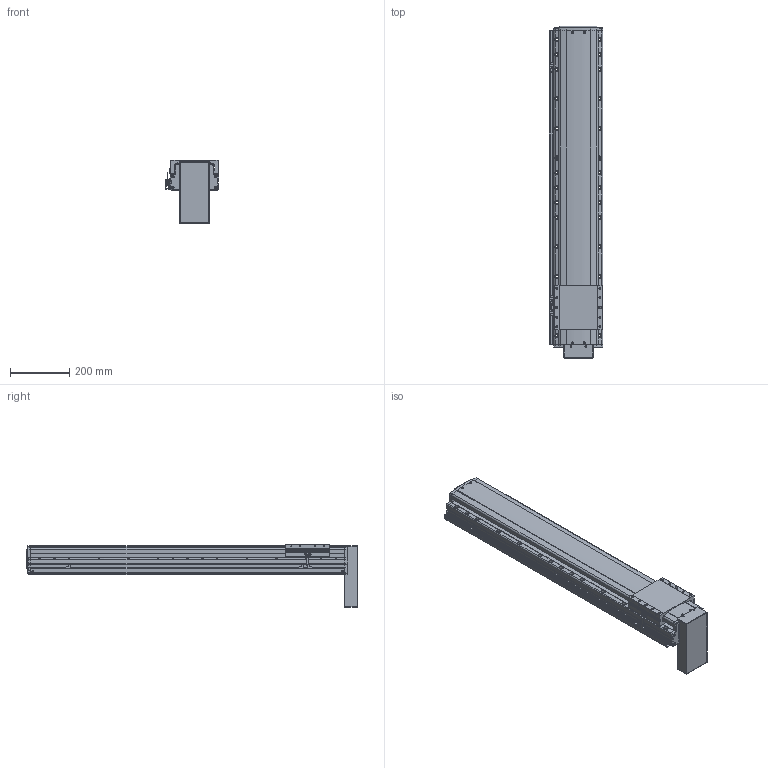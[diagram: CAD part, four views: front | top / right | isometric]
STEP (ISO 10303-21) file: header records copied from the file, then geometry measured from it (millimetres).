
FILE_DESCRIPTION(('STEP AP214'),'1');
FILE_NAME('Z:/Web/3D/PSA165/STP/PSA165-800 (3D)/PSA165ㅁㅁ-800PB+3SL.stp','2014-06-23T11:59:03',(' '),(' '),'Spatial InterOp 3D',' ',' ');
FILE_SCHEMA(('automotive_design'));
Length unit declared in the file: millimetre
Products named in the file (47): 스크루 : Round - M4.0 x 12.0; RRCV-PA160; BASE; 스크루 : Round - M4.0 x 10.0; RN15; Screw 20; SLIDE; FRCV; MTPL CV- PB; 스크루 : Round - M3.0 x 6.0; 1; 2; M3.0 x 6.0; SRL-16x17-360L; SGD-SAN150; EE-SX674; SBK-SX674-352; BHCS M4.0 x 10.0
Bounding box: 181 x 1120.8 x 215.96 mm (x, y, z)
Volume: 15889577.6 mm3; surface area: 1144933.4 mm2
Topology: 47 solids, 47 shells, 2720 faces, 7248 edges, 4648 vertices
Faces by surface type: plane 1541, cylinder 820, cone 246, sphere 72, bspline 25, torus 16
Entity records: 109971 total; most frequent: CARTESIAN_POINT 18845, DIRECTION 14531, ORIENTED_EDGE 14188, EDGE_CURVE 7094, AXIS2_PLACEMENT_3D 4914, LINE 4703, VECTOR 4703, VERTEX_POINT 4648
